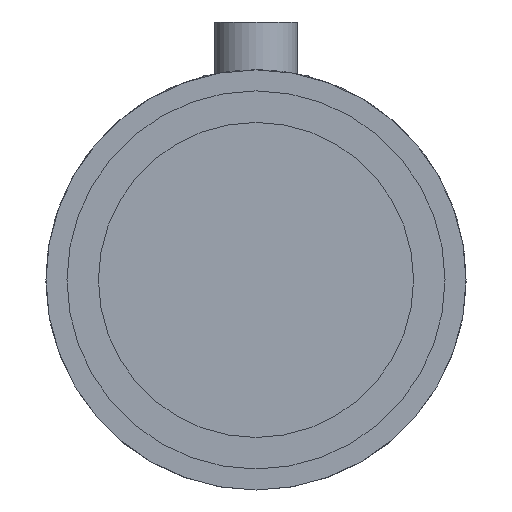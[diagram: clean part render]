
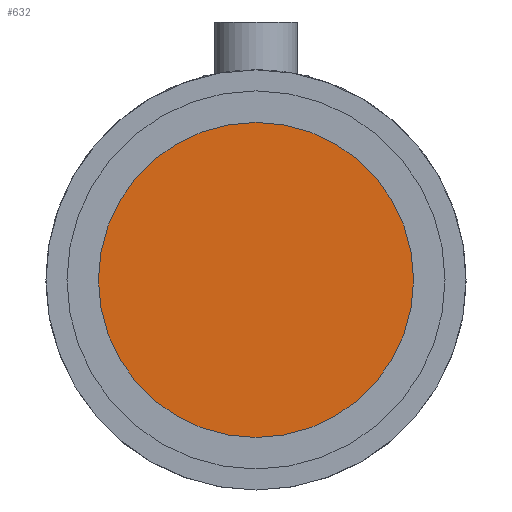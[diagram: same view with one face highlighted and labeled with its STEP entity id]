
A CAD part, front view. The second image highlights one B-rep face of the part: STEP entity #632.
In plain terms, the highlighted planar face has unit normal (0, -1, 0).
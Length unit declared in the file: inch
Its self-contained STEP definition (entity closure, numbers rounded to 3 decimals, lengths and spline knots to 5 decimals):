
#32 = AXIS2_PLACEMENT_3D ( 'NONE', #754, #708, #705 ) ;
#34 = AXIS2_PLACEMENT_3D ( 'NONE', #817, #808, #828 ) ;
#81 = ORIENTED_EDGE ( 'NONE', *, *, #411, .T. ) ;
#179 = CARTESIAN_POINT ( 'NONE',  ( 0., -2.5, 0.9375 ) ) ;
#194 = CARTESIAN_POINT ( 'NONE',  ( 0., -2.5, -0.9375 ) ) ;
#308 = VERTEX_POINT ( 'NONE', #179 ) ;
#318 = VERTEX_POINT ( 'NONE', #194 ) ;
#354 = AXIS2_PLACEMENT_3D ( 'NONE', #931, #933, #932 ) ;
#373 = EDGE_CURVE ( 'NONE', #318, #308, #468, .T. ) ;
#411 = EDGE_CURVE ( 'NONE', #308, #318, #509, .T. ) ;
#420 = ORIENTED_EDGE ( 'NONE', *, *, #373, .T. ) ;
#426 = EDGE_LOOP ( 'NONE', ( #81, #420 ) ) ;
#468 = CIRCLE ( 'NONE', #354, 0.9375 ) ;
#509 = CIRCLE ( 'NONE', #32, 0.9375 ) ;
#569 = FACE_OUTER_BOUND ( 'NONE', #426, .T. ) ;
#632 = ADVANCED_FACE ( 'NONE', ( #569 ), #838, .T. ) ;
#705 = DIRECTION ( 'NONE',  ( 0., 0., -1. ) ) ;
#708 = DIRECTION ( 'NONE',  ( 0., -1., 0. ) ) ;
#754 = CARTESIAN_POINT ( 'NONE',  ( 0., -2.5, 0. ) ) ;
#808 = DIRECTION ( 'NONE',  ( 0., -1., 0. ) ) ;
#817 = CARTESIAN_POINT ( 'NONE',  ( 0., -2.5, 0. ) ) ;
#828 = DIRECTION ( 'NONE',  ( 0., 0., -1. ) ) ;
#838 = PLANE ( 'NONE',  #34 ) ;
#931 = CARTESIAN_POINT ( 'NONE',  ( 0., -2.5, 0. ) ) ;
#932 = DIRECTION ( 'NONE',  ( 0., 0., -1. ) ) ;
#933 = DIRECTION ( 'NONE',  ( 0., -1., 0. ) ) ;
